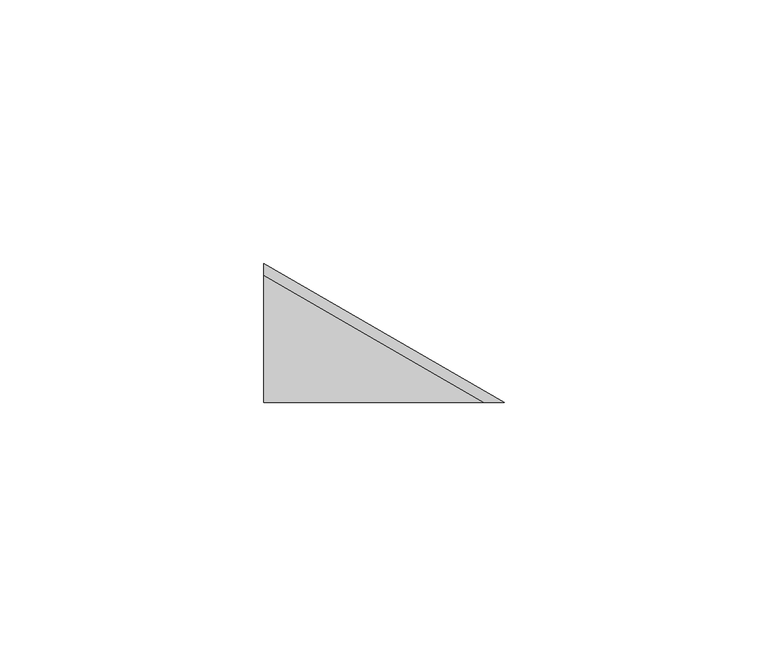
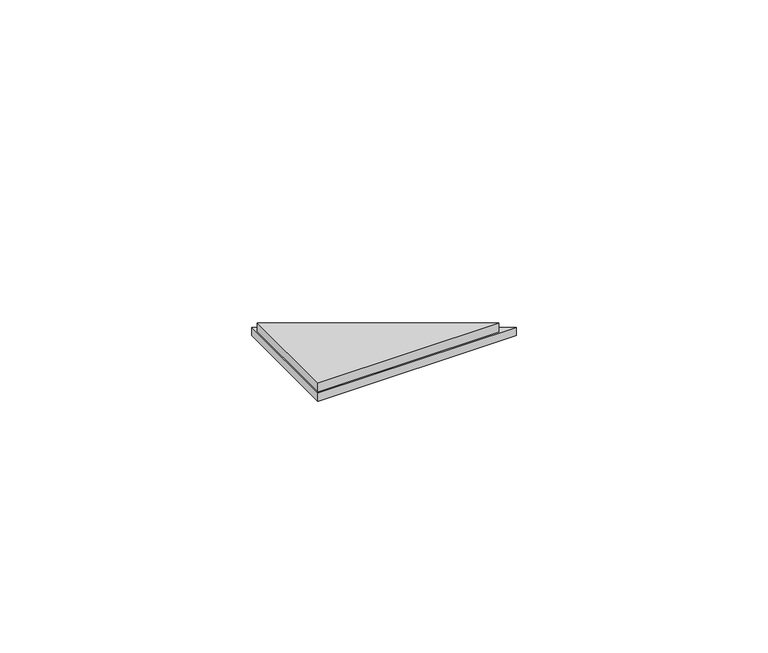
"""IFC4 building model written with IfcOpenShell, lengths in millimetres: proxy geometry, PBSHOP - CUBICA ARGENTO 4,8X8,3 : CUBICA ARGENTO - POSIÇÃO 03."""

from ifc_helpers import new_model, si_unit, origin, place, context, project, spatial, faceted_brep, source, transform, mapped, element, save


def generic_models_021229c9(model_context):
    return source(origin(), model_context, "Body", "Brep", [
        faceted_brep([(45.5692194, 0.0, 2.0), (0.0, 26.3094011, 2.0), (0.0307806, -0.0094011, 2.0), (0.0, 26.3094011, 0.0), (45.5692194, 0.0, 0.0), (0.0307806, -0.0094011, 0.0)], [[[0, 1, 2]], [[3, 4, 5]], [[1, 0, 4, 3]], [[2, 5, 4, 0]], [[5, 2, 1, 3]]]),
        faceted_brep([(41.5692194, 0.0, 4.5), (0.0, 24.0, 4.5), (0.0307806, -0.0094011, 4.5), (0.0, 24.0, 2.0), (41.5692194, 0.0, 2.0), (0.0307806, -0.0094011, 2.0)], [[[0, 1, 2]], [[3, 4, 5]], [[1, 0, 4, 3]], [[2, 5, 4, 0]], [[5, 2, 1, 3]]]),
    ])


if __name__ == "__main__":
    model = new_model("IFC4")
    model_context = context("Model", 3, world=origin())
    ifc_project = project(units=[si_unit("LENGTHUNIT", "METRE", prefix="MILLI")], contexts=[model_context])
    site = spatial("IfcSite", under=ifc_project)
    building = spatial("IfcBuilding", under=site)
    placement = place(None, origin())
    generic_models_shape = generic_models_021229c9(model_context)
    element("IfcBuildingElementProxy", 1, Name="PBSHOP - CUBICA ARGENTO 4,8X8,3 : CUBICA ARGENTO - POSIÇÃO 03", ObjectType="PBSHOP - CUBICA ARGENTO 4,8X8,3 : CUBICA ARGENTO - POSIÇÃO 03", at=placement, inside=building, context=model_context, shape_type="MappedRepresentation", body=[
        mapped(generic_models_shape, transform((0.0, 0.0, 0.0), x_axis=(1.0, 0.0, 0.0), y_axis=(0.0, 1.0, 0.0), z_axis=(0.0, 0.0, 1.0))),
    ])
    save(model, "model.ifc")
